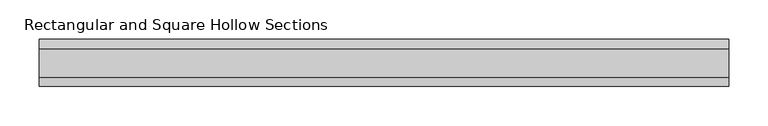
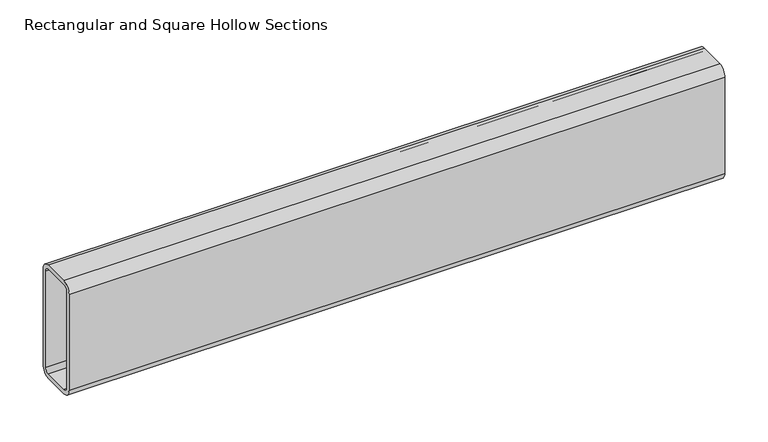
"""IFC4 building model written with IfcOpenShell, lengths in millimetres: beam geometry, Rectangular and Square Hollow Sections : TREC160x60x6."""

from ifc_helpers import new_model, si_unit, point, frame, frame_2d, origin, place, context, project, spatial, polyline, circle_curve, trimmed, segment, composite_curve, outline, extrude, source, transform, mapped, element, save


def rectangular_and_square_hollow_sections_7d008f3f(model_context):
    return source(origin(), model_context, "Body", "SweptSolid", [
        extrude(outline(composite_curve([segment(polyline([(30.0, 68.0), (30.0, -68.0)]), True, "CONTINUOUS"), segment(trimmed(circle_curve(frame_2d((18.0, -68.0)), 12.0), [point((30.0, -68.0))], [point((18.0, -80.0))], False, "CARTESIAN"), True, "CONTINUOUS"), segment(polyline([(18.0, -80.0), (-18.0, -80.0)]), True, "CONTINUOUS"), segment(trimmed(circle_curve(frame_2d((-18.0, -68.0)), 12.0), [point((-18.0, -80.0))], [point((-30.0, -68.0))], False, "CARTESIAN"), True, "CONTINUOUS"), segment(polyline([(-30.0, -68.0), (-30.0, 68.0)]), True, "CONTINUOUS"), segment(trimmed(circle_curve(frame_2d((-18.0, 68.0)), 12.0), [point((-30.0, 68.0))], [point((-18.0, 80.0))], False, "CARTESIAN"), True, "CONTINUOUS"), segment(polyline([(-18.0, 80.0), (18.0, 80.0)]), True, "CONTINUOUS"), segment(trimmed(circle_curve(frame_2d((18.0, 68.0)), 12.0), [point((18.0, 80.0))], [point((30.0, 68.0))], False, "CARTESIAN"), True, "CONTINUOUS")], self_intersect=False), holes=[composite_curve([segment(trimmed(circle_curve(frame_2d((-18.0, 68.0)), 6.0), [point((-18.0, 74.0))], [point((-24.0, 68.0))], True, "CARTESIAN"), True, "CONTINUOUS"), segment(polyline([(-24.0, 68.0), (-24.0, -68.0)]), True, "CONTINUOUS"), segment(trimmed(circle_curve(frame_2d((-18.0, -68.0)), 6.0), [point((-24.0, -68.0))], [point((-18.0, -74.0))], True, "CARTESIAN"), True, "CONTINUOUS"), segment(polyline([(-18.0, -74.0), (18.0, -74.0)]), True, "CONTINUOUS"), segment(trimmed(circle_curve(frame_2d((18.0, -68.0)), 6.0), [point((18.0, -74.0))], [point((24.0, -68.0))], True, "CARTESIAN"), True, "CONTINUOUS"), segment(polyline([(24.0, -68.0), (24.0, 68.0)]), True, "CONTINUOUS"), segment(trimmed(circle_curve(frame_2d((18.0, 68.0)), 6.0), [point((24.0, 68.0))], [point((18.0, 74.0))], True, "CARTESIAN"), True, "CONTINUOUS"), segment(polyline([(18.0, 74.0), (-18.0, 74.0)]), True, "CONTINUOUS")], self_intersect=False)]), frame((-432.0, 0.0, 0.0), z_axis=(1.0, 0.0, 0.0), x_axis=(0.0, 1.0, 0.0)), (0.0, 0.0, 1.0), 877.0),
    ])


if __name__ == "__main__":
    model = new_model("IFC4")
    model_context = context("Model", 3, world=origin())
    ifc_project = project(units=[si_unit("LENGTHUNIT", "METRE", prefix="MILLI")], contexts=[model_context])
    site = spatial("IfcSite", under=ifc_project)
    building = spatial("IfcBuilding", under=site)
    placement = place(None, origin())
    rectangular_and_square_hollow_sections_shape = rectangular_and_square_hollow_sections_7d008f3f(model_context)
    element("IfcBeam", 1, ObjectType="Rectangular and Square Hollow Sections : TREC160x60x6", at=placement, inside=building, context=model_context, shape_type="MappedRepresentation", body=[
        mapped(rectangular_and_square_hollow_sections_shape, transform((0.0, 0.0, 0.0), x_axis=(1.0, 0.0, 0.0), y_axis=(0.0, 1.0, 0.0), z_axis=(0.0, 0.0, 1.0))),
    ])
    save(model, "model.ifc")
